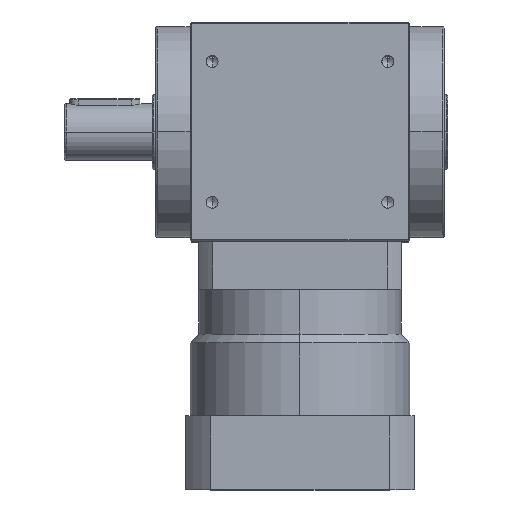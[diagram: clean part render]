
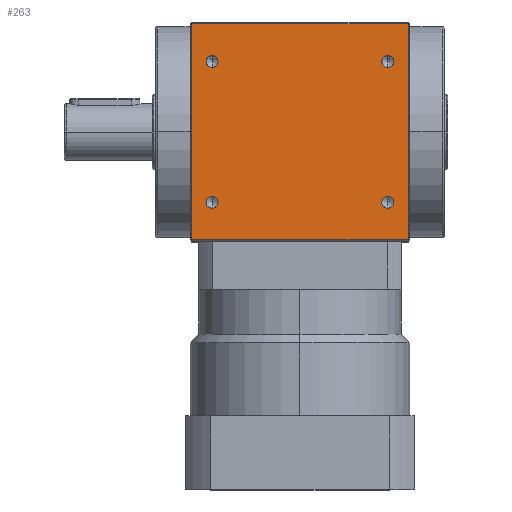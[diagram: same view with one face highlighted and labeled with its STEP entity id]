
A CAD part, top view. The second image highlights one B-rep face of the part: STEP entity #263.
In plain terms, the highlighted planar face has unit normal (0, 0, 1).
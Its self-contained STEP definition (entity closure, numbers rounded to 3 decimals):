
#263 = ADVANCED_FACE ( 'NONE', ( #3490, #3342, #3496, #3509, #3515 ), #6412, .F. ) ;
#266 = VERTEX_POINT ( 'NONE', #6456 ) ;
#399 = ORIENTED_EDGE ( 'NONE', *, *, #7605, .F. ) ;
#426 = DIRECTION ( 'NONE',  ( 0., 0., 1. ) ) ;
#460 = ORIENTED_EDGE ( 'NONE', *, *, #6845, .F. ) ;
#504 = ORIENTED_EDGE ( 'NONE', *, *, #7850, .F. ) ;
#635 = CARTESIAN_POINT ( 'NONE',  ( 61.5, -61.5, 62.5 ) ) ;
#637 = AXIS2_PLACEMENT_3D ( 'NONE', #5866, #1982, #6514 ) ;
#778 = DIRECTION ( 'NONE',  ( 0., 0., 1. ) ) ;
#822 = CARTESIAN_POINT ( 'NONE',  ( 61.5, 61.5, 62.5 ) ) ;
#932 = CIRCLE ( 'NONE', #2697, 3.4 ) ;
#937 = VERTEX_POINT ( 'NONE', #2274 ) ;
#990 = EDGE_LOOP ( 'NONE', ( #5224, #2902 ) ) ;
#1005 = CARTESIAN_POINT ( 'NONE',  ( -50., -40., 62.5 ) ) ;
#1020 = CARTESIAN_POINT ( 'NONE',  ( 0., 61.5, 62.5 ) ) ;
#1044 = EDGE_CURVE ( 'NONE', #2734, #7298, #1573, .T. ) ;
#1110 = AXIS2_PLACEMENT_3D ( 'NONE', #3255, #7751, #3906 ) ;
#1205 = DIRECTION ( 'NONE',  ( 0., -1., 0. ) ) ;
#1286 = LINE ( 'NONE', #6316, #7966 ) ;
#1297 = CARTESIAN_POINT ( 'NONE',  ( -50., -40., 62.5 ) ) ;
#1298 = CIRCLE ( 'NONE', #3507, 3.4 ) ;
#1346 = ORIENTED_EDGE ( 'NONE', *, *, #8246, .T. ) ;
#1472 = CIRCLE ( 'NONE', #637, 3.4 ) ;
#1573 = CIRCLE ( 'NONE', #6626, 3.4 ) ;
#1629 = DIRECTION ( 'NONE',  ( 0., -1., 0. ) ) ;
#1642 = DIRECTION ( 'NONE',  ( 0., 0., 1. ) ) ;
#1644 = CARTESIAN_POINT ( 'NONE',  ( -50., 40., 62.5 ) ) ;
#1719 = DIRECTION ( 'NONE',  ( -1., 0., 0. ) ) ;
#1919 = DIRECTION ( 'NONE',  ( 0., 0., 1. ) ) ;
#1933 = VERTEX_POINT ( 'NONE', #8052 ) ;
#1971 = DIRECTION ( 'NONE',  ( 0., -1., 0. ) ) ;
#1982 = DIRECTION ( 'NONE',  ( 0., 0., 1. ) ) ;
#2018 = CARTESIAN_POINT ( 'NONE',  ( 0., -61.5, 62.5 ) ) ;
#2182 = VERTEX_POINT ( 'NONE', #6779 ) ;
#2197 = LINE ( 'NONE', #6761, #7133 ) ;
#2205 = ORIENTED_EDGE ( 'NONE', *, *, #7880, .F. ) ;
#2250 = CARTESIAN_POINT ( 'NONE',  ( -50., -36.6, 62.5 ) ) ;
#2274 = CARTESIAN_POINT ( 'NONE',  ( 50., 43.4, 62.5 ) ) ;
#2437 = CARTESIAN_POINT ( 'NONE',  ( -50., 36.6, 62.5 ) ) ;
#2585 = LINE ( 'NONE', #1020, #7506 ) ;
#2697 = AXIS2_PLACEMENT_3D ( 'NONE', #3423, #7934, #4070 ) ;
#2734 = VERTEX_POINT ( 'NONE', #3582 ) ;
#2746 = VERTEX_POINT ( 'NONE', #3511 ) ;
#2891 = DIRECTION ( 'NONE',  ( 0., -1., 0. ) ) ;
#2902 = ORIENTED_EDGE ( 'NONE', *, *, #4892, .F. ) ;
#3074 = ORIENTED_EDGE ( 'NONE', *, *, #1044, .F. ) ;
#3204 = CIRCLE ( 'NONE', #1110, 3.4 ) ;
#3255 = CARTESIAN_POINT ( 'NONE',  ( 50., 40., 62.5 ) ) ;
#3342 = FACE_BOUND ( 'NONE', #4184, .T. ) ;
#3423 = CARTESIAN_POINT ( 'NONE',  ( 50., -40., 62.5 ) ) ;
#3490 = FACE_OUTER_BOUND ( 'NONE', #5707, .T. ) ;
#3496 = FACE_BOUND ( 'NONE', #3569, .T. ) ;
#3507 = AXIS2_PLACEMENT_3D ( 'NONE', #1005, #426, #1205 ) ;
#3509 = FACE_BOUND ( 'NONE', #990, .T. ) ;
#3511 = CARTESIAN_POINT ( 'NONE',  ( -61.5, 61.5, 62.5 ) ) ;
#3515 = FACE_BOUND ( 'NONE', #5621, .T. ) ;
#3569 = EDGE_LOOP ( 'NONE', ( #399, #4908 ) ) ;
#3582 = CARTESIAN_POINT ( 'NONE',  ( -50., 43.4, 62.5 ) ) ;
#3809 = VERTEX_POINT ( 'NONE', #635 ) ;
#3906 = DIRECTION ( 'NONE',  ( 0., -1., 0. ) ) ;
#3988 = CARTESIAN_POINT ( 'NONE',  ( 50., 36.6, 62.5 ) ) ;
#4046 = AXIS2_PLACEMENT_3D ( 'NONE', #5798, #1919, #6438 ) ;
#4070 = DIRECTION ( 'NONE',  ( 0., -1., 0. ) ) ;
#4184 = EDGE_LOOP ( 'NONE', ( #504, #3074 ) ) ;
#4280 = ORIENTED_EDGE ( 'NONE', *, *, #7688, .F. ) ;
#4444 = VERTEX_POINT ( 'NONE', #3988 ) ;
#4705 = CARTESIAN_POINT ( 'NONE',  ( 50., 40., 62.5 ) ) ;
#4892 = EDGE_CURVE ( 'NONE', #7126, #7099, #1298, .T. ) ;
#4908 = ORIENTED_EDGE ( 'NONE', *, *, #7819, .F. ) ;
#4910 = CIRCLE ( 'NONE', #4046, 3.4 ) ;
#5040 = DIRECTION ( 'NONE',  ( 0., 1., 0. ) ) ;
#5207 = VERTEX_POINT ( 'NONE', #822 ) ;
#5224 = ORIENTED_EDGE ( 'NONE', *, *, #6898, .F. ) ;
#5370 = DIRECTION ( 'NONE',  ( 0., -1., 0. ) ) ;
#5621 = EDGE_LOOP ( 'NONE', ( #460, #7279 ) ) ;
#5707 = EDGE_LOOP ( 'NONE', ( #4280, #1346, #7416, #2205 ) ) ;
#5798 = CARTESIAN_POINT ( 'NONE',  ( 50., -40., 62.5 ) ) ;
#5844 = DIRECTION ( 'NONE',  ( 0., 0., 1. ) ) ;
#5866 = CARTESIAN_POINT ( 'NONE',  ( -50., 40., 62.5 ) ) ;
#5893 = DIRECTION ( 'NONE',  ( -1., 0., 0. ) ) ;
#5947 = CIRCLE ( 'NONE', #7073, 3.4 ) ;
#6094 = CARTESIAN_POINT ( 'NONE',  ( -50., -43.4, 62.5 ) ) ;
#6316 = CARTESIAN_POINT ( 'NONE',  ( -61.5, 0., 62.5 ) ) ;
#6337 = DIRECTION ( 'NONE',  ( -1., 0., 0. ) ) ;
#6339 = DIRECTION ( 'NONE',  ( 0., 0., -1. ) ) ;
#6345 = CARTESIAN_POINT ( 'NONE',  ( 0., 0., 62.5 ) ) ;
#6412 = PLANE ( 'NONE',  #7675 ) ;
#6438 = DIRECTION ( 'NONE',  ( 0., -1., 0. ) ) ;
#6456 = CARTESIAN_POINT ( 'NONE',  ( 50., -43.4, 62.5 ) ) ;
#6514 = DIRECTION ( 'NONE',  ( 0., -1., 0. ) ) ;
#6556 = CIRCLE ( 'NONE', #7644, 3.4 ) ;
#6626 = AXIS2_PLACEMENT_3D ( 'NONE', #1644, #1642, #1629 ) ;
#6761 = CARTESIAN_POINT ( 'NONE',  ( 61.5, 0., 62.5 ) ) ;
#6779 = CARTESIAN_POINT ( 'NONE',  ( 50., -36.6, 62.5 ) ) ;
#6845 = EDGE_CURVE ( 'NONE', #266, #2182, #4910, .T. ) ;
#6898 = EDGE_CURVE ( 'NONE', #7099, #7126, #5947, .T. ) ;
#7073 = AXIS2_PLACEMENT_3D ( 'NONE', #1297, #5844, #1971 ) ;
#7099 = VERTEX_POINT ( 'NONE', #6094 ) ;
#7126 = VERTEX_POINT ( 'NONE', #2250 ) ;
#7133 = VECTOR ( 'NONE', #2891, 1000. ) ;
#7279 = ORIENTED_EDGE ( 'NONE', *, *, #7969, .F. ) ;
#7298 = VERTEX_POINT ( 'NONE', #2437 ) ;
#7308 = EDGE_CURVE ( 'NONE', #1933, #2746, #1286, .T. ) ;
#7316 = VECTOR ( 'NONE', #5893, 1000. ) ;
#7416 = ORIENTED_EDGE ( 'NONE', *, *, #7308, .F. ) ;
#7506 = VECTOR ( 'NONE', #1719, 1000. ) ;
#7507 = LINE ( 'NONE', #2018, #7316 ) ;
#7605 = EDGE_CURVE ( 'NONE', #4444, #937, #6556, .T. ) ;
#7644 = AXIS2_PLACEMENT_3D ( 'NONE', #4705, #778, #5370 ) ;
#7675 = AXIS2_PLACEMENT_3D ( 'NONE', #6345, #6339, #6337 ) ;
#7688 = EDGE_CURVE ( 'NONE', #5207, #3809, #2197, .T. ) ;
#7751 = DIRECTION ( 'NONE',  ( 0., 0., 1. ) ) ;
#7819 = EDGE_CURVE ( 'NONE', #937, #4444, #3204, .T. ) ;
#7850 = EDGE_CURVE ( 'NONE', #7298, #2734, #1472, .T. ) ;
#7880 = EDGE_CURVE ( 'NONE', #3809, #1933, #7507, .T. ) ;
#7934 = DIRECTION ( 'NONE',  ( 0., 0., 1. ) ) ;
#7966 = VECTOR ( 'NONE', #5040, 1000. ) ;
#7969 = EDGE_CURVE ( 'NONE', #2182, #266, #932, .T. ) ;
#8052 = CARTESIAN_POINT ( 'NONE',  ( -61.5, -61.5, 62.5 ) ) ;
#8246 = EDGE_CURVE ( 'NONE', #5207, #2746, #2585, .T. ) ;
